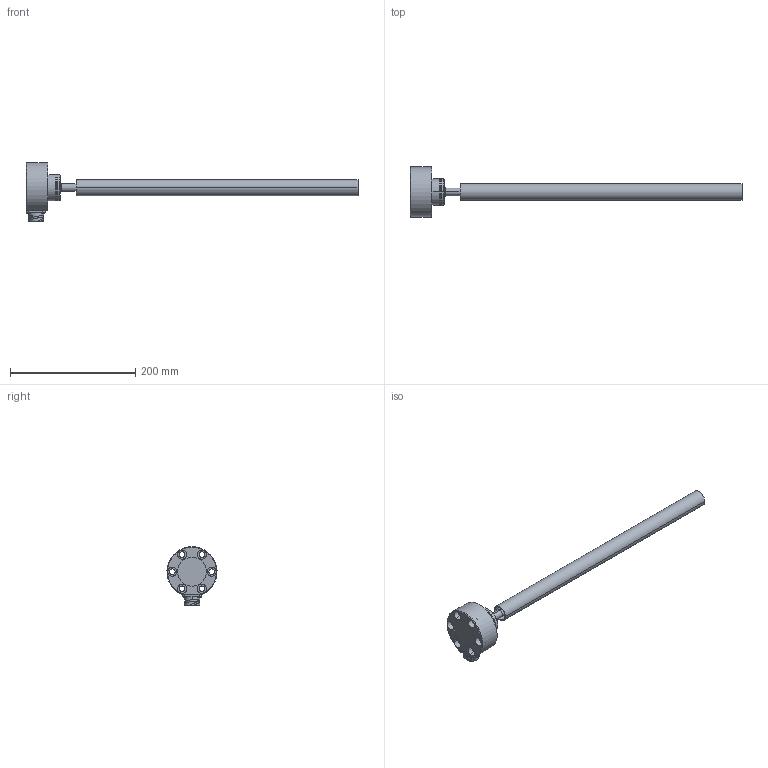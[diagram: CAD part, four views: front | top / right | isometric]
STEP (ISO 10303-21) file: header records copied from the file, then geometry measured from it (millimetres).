
FILE_DESCRIPTION((''),'2;1');
FILE_NAME('EDS-400-F-SRB_MIT_ROHR_ASM','2007-12-17T',('11000065'),(''),'PRO/ENGINEER BY PARAMETRIC TECHNOLOGY CORPORATION, 2007160','PRO/ENGINEER BY PARAMETRIC TECHNOLOGY CORPORATION, 2007160','');
FILE_SCHEMA(('AUTOMOTIVE_DESIGN { 1 2 10303 214 0 1 1 1 }'));
Length unit declared in the file: millimetre
Products named in the file (4): EDS-400-F; MESSROHR; O-RING-38X2; EDS-400-F-SRB_MIT_ROHR_ASM
Assembly tree (3 placements, depth 2):
  EDS-400-F-SRB_MIT_ROHR_ASM
    EDS-400-F
    MESSROHR
    O-RING-38X2
Bounding box: 530 x 79.87 x 93.7 mm (x, y, z)
Volume: 289686.4 mm3; surface area: 117965.4 mm2
Topology: 3 solids, 7 shells, 270 faces, 638 edges, 418 vertices
Faces by surface type: cylinder 113, plane 88, cone 39, bspline 16, torus 12, sphere 2
Entity records: 9120 total; most frequent: CARTESIAN_POINT 2547, DIRECTION 1334, ORIENTED_EDGE 1272, EDGE_CURVE 636, AXIS2_PLACEMENT_3D 560, VERTEX_POINT 418, EDGE_LOOP 324, CIRCLE 299
